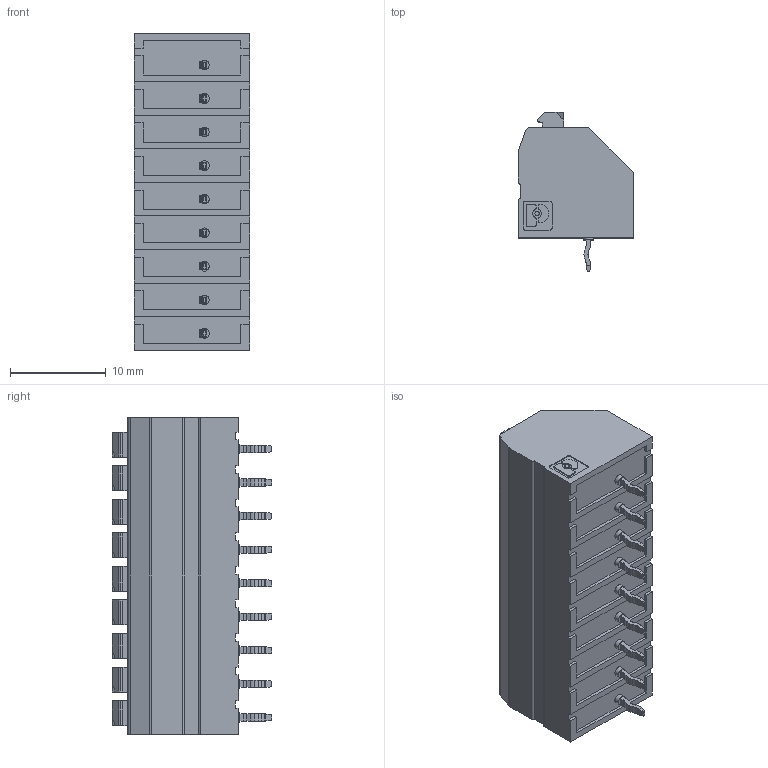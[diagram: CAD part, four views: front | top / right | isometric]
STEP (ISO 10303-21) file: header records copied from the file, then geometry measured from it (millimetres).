
FILE_DESCRIPTION(('SolidDesigner STEP Export'),'2;1');
FILE_NAME('ptsa1.5-9-3.5-f.stp','2002-09-27T 7:22:12',(''),(''),'OneSpaceDesigner STEP processor Version: 9.0 (March 2001)for AP214(CD)(Solid Model)','CoCreate OneSpaceDesigner: 11.50A 18-Jul-2002(C) CoCreate Software GmbH','');
FILE_SCHEMA(('AUTOMOTIVE_DESIGN_CC2 {1 2 10303 214 -1 1 5 1}'));
Length unit declared in the file: millimetre
Products named in the file (2): ptsa1.5-9-3.5-f
Assembly tree (1 placements, depth 2):
  ptsa1.5-9-3.5-f
    ptsa1.5-9-3.5-f
Bounding box: 12 x 16.6 x 33 mm (x, y, z)
Volume: 3755.7 mm3; surface area: 2553.8 mm2
Topology: 1 solids, 1 shells, 830 faces, 2269 edges, 1469 vertices
Faces by surface type: plane 526, cylinder 238, cone 66
Entity records: 34900 total; most frequent: CARTESIAN_POINT 7846, ORIENTED_EDGE 4538, DIRECTION 3933, EDGE_CURVE 2269, VECTOR 1567, LINE 1567, VERTEX_POINT 1469, AXIS2_PLACEMENT_3D 1183
